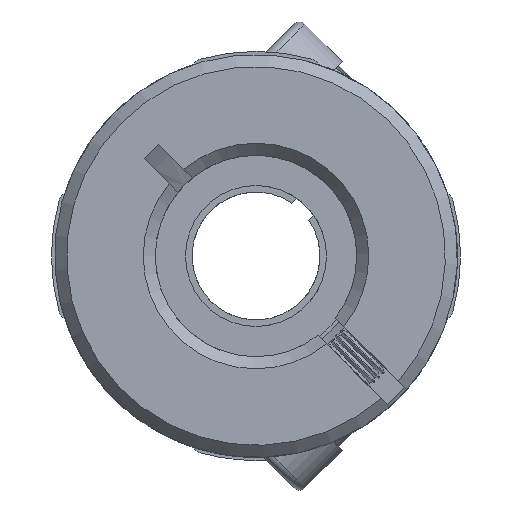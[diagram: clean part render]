
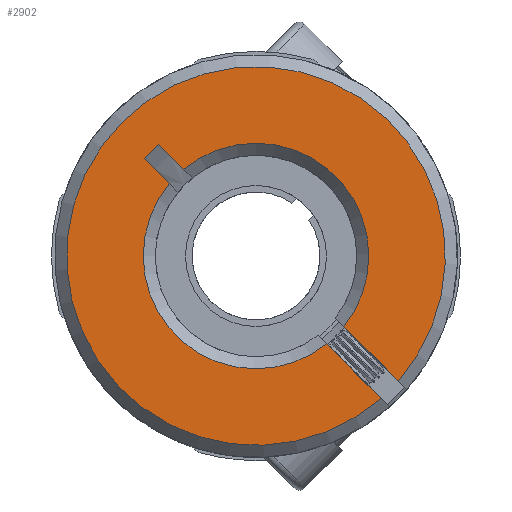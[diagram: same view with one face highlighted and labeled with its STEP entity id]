
A CAD part, front view. The second image highlights one B-rep face of the part: STEP entity #2902.
In plain terms, the highlighted planar face has unit normal (0, -1, 0).
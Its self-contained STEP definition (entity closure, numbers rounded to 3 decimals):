
#22 = VERTEX_POINT ( 'NONE', #12760 ) ;
#415 = VERTEX_POINT ( 'NONE', #6410 ) ;
#473 = ORIENTED_EDGE ( 'NONE', *, *, #2269, .F. ) ;
#503 = LINE ( 'NONE', #2734, #3984 ) ;
#625 = CIRCLE ( 'NONE', #6685, 9.4 ) ;
#808 = CIRCLE ( 'NONE', #7891, 5.6 ) ;
#960 = ORIENTED_EDGE ( 'NONE', *, *, #10583, .F. ) ;
#1065 = LINE ( 'NONE', #10903, #9560 ) ;
#1093 = VECTOR ( 'NONE', #1170, 1000. ) ;
#1170 = DIRECTION ( 'NONE',  ( 0.707, 0., -0.707 ) ) ;
#1412 = DIRECTION ( 'NONE',  ( 0., -1., 0. ) ) ;
#1622 = DIRECTION ( 'NONE',  ( 0., 1., 0. ) ) ;
#1628 = AXIS2_PLACEMENT_3D ( 'NONE', #10945, #1622, #2778 ) ;
#1721 = EDGE_CURVE ( 'NONE', #6070, #22, #12203, .T. ) ;
#2231 = CARTESIAN_POINT ( 'NONE',  ( -4.842, -12.6, 5.549 ) ) ;
#2269 = EDGE_CURVE ( 'NONE', #22, #4775, #503, .T. ) ;
#2684 = EDGE_LOOP ( 'NONE', ( #6666, #11029, #960, #3537, #2782, #7660, #473, #3016 ) ) ;
#2734 = CARTESIAN_POINT ( 'NONE',  ( 4.95, -12.6, -5.657 ) ) ;
#2778 = DIRECTION ( 'NONE',  ( 0.707, 0., -0.707 ) ) ;
#2782 = ORIENTED_EDGE ( 'NONE', *, *, #3746, .F. ) ;
#2791 = EDGE_CURVE ( 'NONE', #11826, #8279, #808, .T. ) ;
#2902 = ADVANCED_FACE ( 'NONE', ( #12633 ), #7043, .F. ) ;
#2935 = DIRECTION ( 'NONE',  ( 0., 1., 0. ) ) ;
#3016 = ORIENTED_EDGE ( 'NONE', *, *, #1721, .F. ) ;
#3537 = ORIENTED_EDGE ( 'NONE', *, *, #3842, .T. ) ;
#3746 = EDGE_CURVE ( 'NONE', #8124, #13014, #12763, .T. ) ;
#3842 = EDGE_CURVE ( 'NONE', #415, #13014, #625, .T. ) ;
#3984 = VECTOR ( 'NONE', #6701, 1000. ) ;
#4433 = CARTESIAN_POINT ( 'NONE',  ( -4.298, -12.6, 3.59 ) ) ;
#4775 = VERTEX_POINT ( 'NONE', #4433 ) ;
#5196 = CARTESIAN_POINT ( 'NONE',  ( 3.086, -12.6, -3.934 ) ) ;
#5237 = CARTESIAN_POINT ( 'NONE',  ( 4.361, -12.6, -3.513 ) ) ;
#5443 = DIRECTION ( 'NONE',  ( 0.707, 0., -0.707 ) ) ;
#6065 = CARTESIAN_POINT ( 'NONE',  ( 3.513, -12.6, -4.361 ) ) ;
#6070 = VERTEX_POINT ( 'NONE', #7831 ) ;
#6075 = AXIS2_PLACEMENT_3D ( 'NONE', #9179, #2935, #10120 ) ;
#6112 = EDGE_CURVE ( 'NONE', #8124, #4775, #8896, .T. ) ;
#6410 = CARTESIAN_POINT ( 'NONE',  ( 7.058, -12.6, -6.209 ) ) ;
#6540 = VECTOR ( 'NONE', #11133, 1000. ) ;
#6641 = CARTESIAN_POINT ( 'NONE',  ( 6.209, -12.6, -7.058 ) ) ;
#6666 = ORIENTED_EDGE ( 'NONE', *, *, #10063, .T. ) ;
#6685 = AXIS2_PLACEMENT_3D ( 'NONE', #10596, #1412, #5443 ) ;
#6701 = DIRECTION ( 'NONE',  ( 0.707, 0., -0.707 ) ) ;
#6820 = CARTESIAN_POINT ( 'NONE',  ( 0., -12.6, 0. ) ) ;
#7043 = PLANE ( 'NONE',  #6075 ) ;
#7660 = ORIENTED_EDGE ( 'NONE', *, *, #6112, .T. ) ;
#7831 = CARTESIAN_POINT ( 'NONE',  ( -4.842, -12.6, 5.549 ) ) ;
#7891 = AXIS2_PLACEMENT_3D ( 'NONE', #6820, #12048, #13003 ) ;
#8063 = CARTESIAN_POINT ( 'NONE',  ( -3.59, -12.6, 4.298 ) ) ;
#8124 = VERTEX_POINT ( 'NONE', #6065 ) ;
#8279 = VERTEX_POINT ( 'NONE', #5237 ) ;
#8298 = LINE ( 'NONE', #11009, #6540 ) ;
#8896 = CIRCLE ( 'NONE', #1628, 5.6 ) ;
#9179 = CARTESIAN_POINT ( 'NONE',  ( 342.528, -12.6, 364.579 ) ) ;
#9560 = VECTOR ( 'NONE', #11849, 1000. ) ;
#10063 = EDGE_CURVE ( 'NONE', #6070, #11826, #8298, .T. ) ;
#10120 = DIRECTION ( 'NONE',  ( 0.707, 0., -0.707 ) ) ;
#10277 = VECTOR ( 'NONE', #12468, 1000. ) ;
#10583 = EDGE_CURVE ( 'NONE', #415, #8279, #1065, .T. ) ;
#10596 = CARTESIAN_POINT ( 'NONE',  ( 0., -12.6, 0. ) ) ;
#10903 = CARTESIAN_POINT ( 'NONE',  ( 3.934, -12.6, -3.086 ) ) ;
#10945 = CARTESIAN_POINT ( 'NONE',  ( 0., -12.6, 0. ) ) ;
#11009 = CARTESIAN_POINT ( 'NONE',  ( 5.657, -12.6, -4.95 ) ) ;
#11029 = ORIENTED_EDGE ( 'NONE', *, *, #2791, .T. ) ;
#11133 = DIRECTION ( 'NONE',  ( 0.707, 0., -0.707 ) ) ;
#11826 = VERTEX_POINT ( 'NONE', #8063 ) ;
#11849 = DIRECTION ( 'NONE',  ( -0.707, 0., 0.707 ) ) ;
#12048 = DIRECTION ( 'NONE',  ( 0., 1., 0. ) ) ;
#12203 = LINE ( 'NONE', #2231, #10277 ) ;
#12468 = DIRECTION ( 'NONE',  ( -0.707, 0., -0.707 ) ) ;
#12633 = FACE_OUTER_BOUND ( 'NONE', #2684, .T. ) ;
#12760 = CARTESIAN_POINT ( 'NONE',  ( -5.549, -12.6, 4.842 ) ) ;
#12763 = LINE ( 'NONE', #5196, #1093 ) ;
#13003 = DIRECTION ( 'NONE',  ( 0.707, 0., -0.707 ) ) ;
#13014 = VERTEX_POINT ( 'NONE', #6641 ) ;
